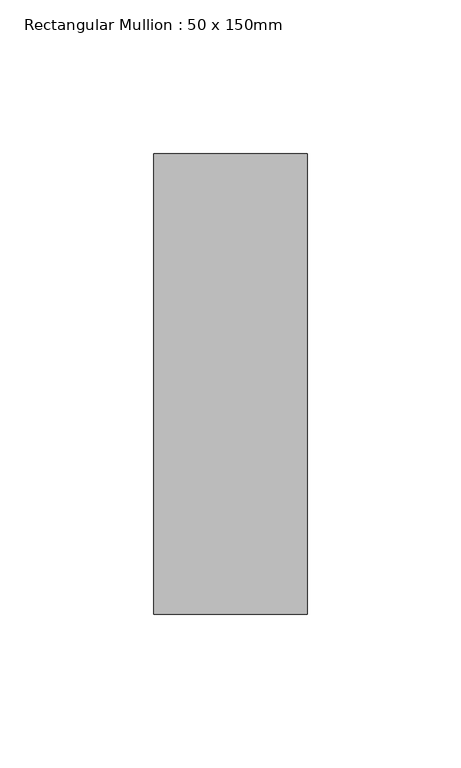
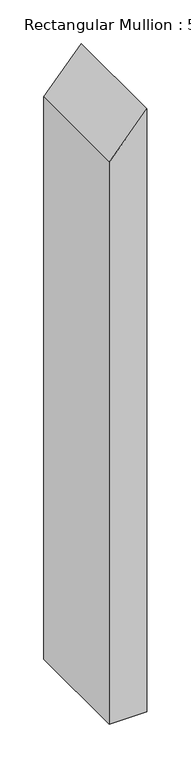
"""IFC4 building model written with IfcOpenShell, lengths in millimetres: member geometry, Rectangular Mullion : 50 x 150mm."""

from ifc_helpers import new_model, si_unit, frame, origin, place, context, project, spatial, polyline, outline, extrude, source, transform, mapped, element, save


def rectangular_mullion_50_x_150mm_42b3e0d5(model_context):
    return source(origin(), model_context, "Body", "SweptSolid", [
        extrude(outline(polyline([(-47.3292929, 25.0), (-104.3576144, -25.0), (-890.4048116, -25.0), (-890.4048116, 25.0), (-47.3292929, 25.0)])), frame((0.0, -75.0, 0.0), z_axis=(0.0, 1.0, 0.0), x_axis=(0.0, 0.0, 1.0)), (0.0, 0.0, 1.0), 150.0),
    ])


if __name__ == "__main__":
    model = new_model("IFC4")
    model_context = context("Model", 3, world=origin())
    ifc_project = project(units=[si_unit("LENGTHUNIT", "METRE", prefix="MILLI")], contexts=[model_context])
    site = spatial("IfcSite", under=ifc_project)
    building = spatial("IfcBuilding", under=site)
    placement = place(None, origin())
    rectangular_mullion_50_x_150mm_shape = rectangular_mullion_50_x_150mm_42b3e0d5(model_context)
    element("IfcMember", 1, ObjectType="Rectangular Mullion : 50 x 150mm", at=placement, inside=building, context=model_context, shape_type="MappedRepresentation", body=[
        mapped(rectangular_mullion_50_x_150mm_shape, transform((0.0, 0.0, 0.0), x_axis=(1.0, 0.0, 0.0), y_axis=(0.0, 1.0, 0.0), z_axis=(0.0, 0.0, 1.0))),
    ])
    save(model, "model.ifc")
